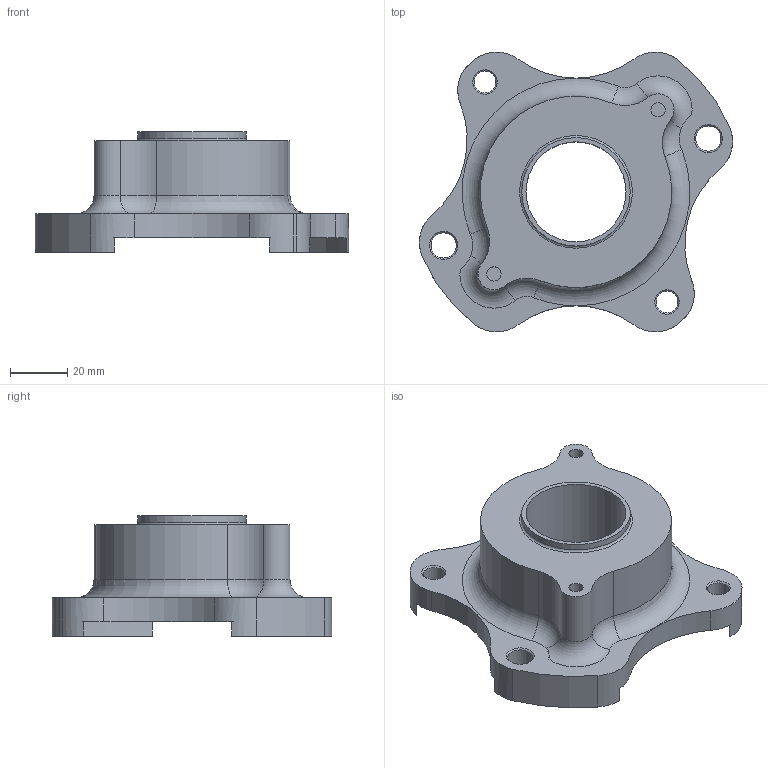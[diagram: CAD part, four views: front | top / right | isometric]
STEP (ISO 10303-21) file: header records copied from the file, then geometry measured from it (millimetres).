
FILE_DESCRIPTION(/* description */ ('Unknown'),/* implementation_level */ '2;1');
FILE_NAME(/* name */ '62-877',/* time_stamp */ '2022-12-30T05:08:19-08:00',/* author */ ('Unknown'),/* organization */ ('Unknown'),/* preprocessor_version */ 'ST-DEVELOPER v16.7',/* originating_system */ 'DEX',/* authorisation */ $);
FILE_SCHEMA (('AUTOMOTIVE_DESIGN {1 0 10303 214 3 1 1}'));
Length unit declared in the file: millimetre
Products named in the file (1): 5185
Bounding box: 109.69 x 97.98 x 42.16 mm (x, y, z)
Volume: 134052.2 mm3; surface area: 29384.7 mm2
Topology: 1 solids, 1 shells, 62 faces, 160 edges, 103 vertices
Faces by surface type: cylinder 38, plane 11, torus 9, cone 4
Full cylindrical faces by diameter (mm): 4.976 x2, 7.493 x2, 8.839 x2, 35.052 x1, 37.986 x1
Entity records: 2328 total; most frequent: DIRECTION 368, CARTESIAN_POINT 327, ORIENTED_EDGE 286, AXIS2_PLACEMENT_3D 168, EDGE_CURVE 143, CIRCLE 105, VERTEX_POINT 99, EDGE_LOOP 88
